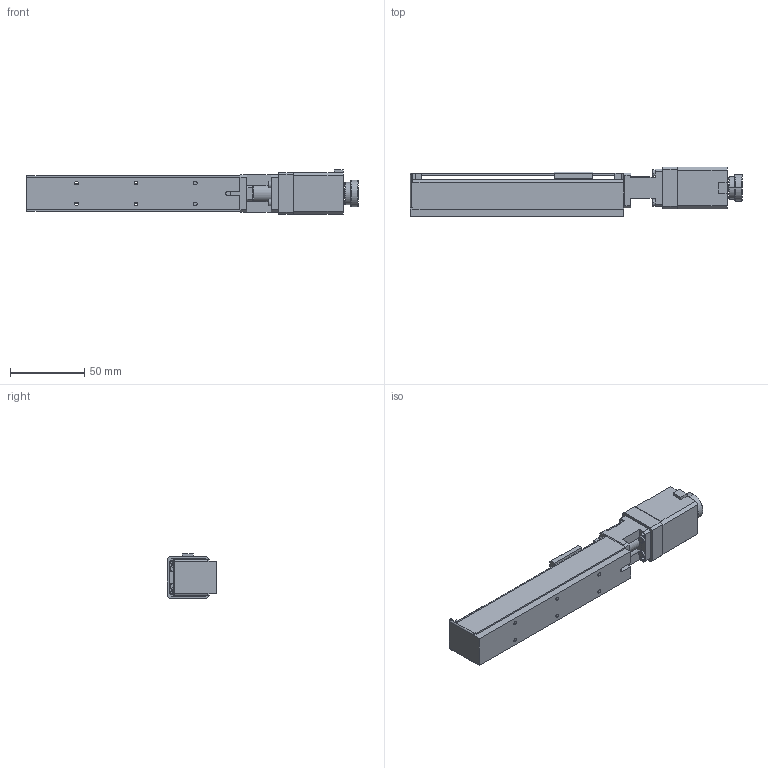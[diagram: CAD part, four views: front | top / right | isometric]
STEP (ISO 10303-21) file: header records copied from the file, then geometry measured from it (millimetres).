
FILE_DESCRIPTION (( 'STEP AP203' ), '1' );
FILE_NAME ('FAS-080-TR.STEP', '2015-08-25T05:03:07', ( '' ), ( '' ), 'SwSTEP 2.0', 'SolidWorks 2015', '' );
FILE_SCHEMA (( 'CONFIG_CONTROL_DESIGN' ));
Length unit declared in the file: millimetre
Products named in the file (1): FAS-080-TR
Bounding box: 223.5 x 33.5 x 30 mm (x, y, z)
Volume: 87318 mm3; surface area: 43907.1 mm2
Topology: 5 solids, 9 shells, 249 faces, 627 edges, 402 vertices
Faces by surface type: plane 147, cylinder 86, cone 14, sphere 2
Entity records: 7528 total; most frequent: CARTESIAN_POINT 1301, DIRECTION 1293, ORIENTED_EDGE 1250, EDGE_CURVE 625, VECTOR 441, LINE 441, AXIS2_PLACEMENT_3D 426, VERTEX_POINT 402
